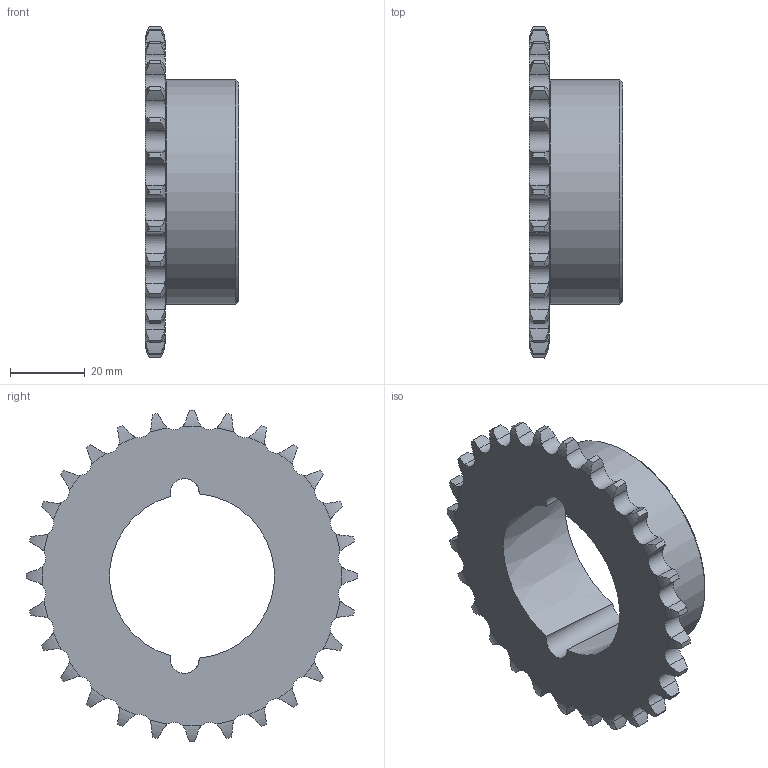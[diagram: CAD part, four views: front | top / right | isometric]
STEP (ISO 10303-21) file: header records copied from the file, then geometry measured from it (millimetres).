
FILE_DESCRIPTION(/* description */ (''),/* implementation_level */ '2;1');
FILE_NAME(/* name */ 'C:\Users\stagistaCAD\Desktop\17109028.stp',/* time_stamp */ '2018-06-18T08:57:33+02:00',/* author */ ('stagistacad'),/* organization */ (''),/* preprocessor_version */ 'ST-DEVELOPER v15.6',/* originating_system */ 'Autodesk Inventor 2015',/* authorisation */ '');
FILE_SCHEMA (('AUTOMOTIVE_DESIGN { 1 0 10303 214 3 1 1 }'));
Length unit declared in the file: millimetre
Products named in the file (1): 17109028
Bounding box: 25 x 88.72 x 88.72 mm (x, y, z)
Volume: 41086.7 mm3; surface area: 16772 mm2
Topology: 1 solids, 1 shells, 180 faces, 529 edges, 352 vertices
Faces by surface type: cylinder 116, torus 57, cone 4, plane 3
Full cylindrical faces by diameter (mm): 60 x1
Entity records: 6650 total; most frequent: CARTESIAN_POINT 2118, ORIENTED_EDGE 1052, DIRECTION 840, EDGE_CURVE 526, AXIS2_PLACEMENT_3D 364, VERTEX_POINT 352, B_SPLINE_CURVE_WITH_KNOTS 231, EDGE_LOOP 186
